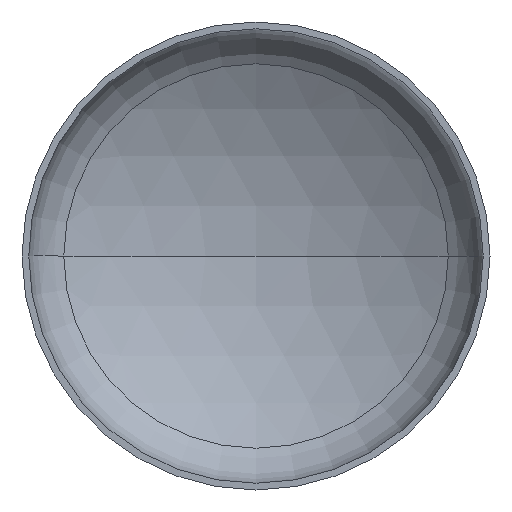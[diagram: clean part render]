
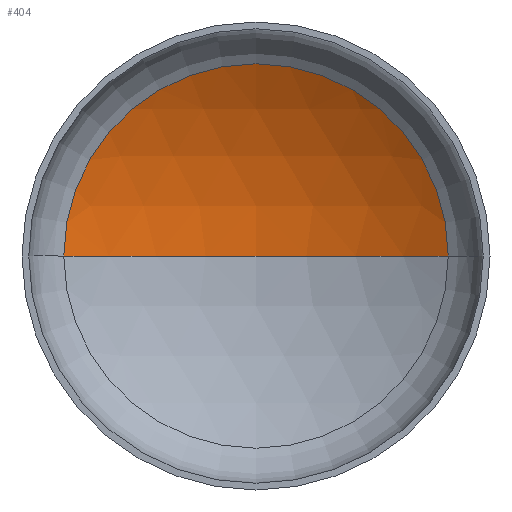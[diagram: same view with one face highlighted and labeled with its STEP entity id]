
A CAD part, front view. The second image highlights one B-rep face of the part: STEP entity #404.
In plain terms, the highlighted spherical face has radius 3200 mm.
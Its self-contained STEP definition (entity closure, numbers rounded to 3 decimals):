
#10 = AXIS2_PLACEMENT_3D ( 'NONE', #409, #318, #214 ) ;
#31 = VERTEX_POINT ( 'NONE', #244 ) ;
#43 = ORIENTED_EDGE ( 'NONE', *, *, #347, .F. ) ;
#56 = AXIS2_PLACEMENT_3D ( 'NONE', #407, #63, #59 ) ;
#57 = AXIS2_PLACEMENT_3D ( 'NONE', #196, #199, #175 ) ;
#59 = DIRECTION ( 'NONE',  ( -1., 0., 0. ) ) ;
#63 = DIRECTION ( 'NONE',  ( 0., 0., -1. ) ) ;
#99 = DIRECTION ( 'NONE',  ( 0., 0., -1. ) ) ;
#109 = CIRCLE ( 'NONE', #10, 3200. ) ;
#110 = EDGE_CURVE ( 'NONE', #369, #31, #282, .T. ) ;
#112 = ORIENTED_EDGE ( 'NONE', *, *, #130, .T. ) ;
#130 = EDGE_CURVE ( 'NONE', #353, #369, #351, .T. ) ;
#131 = DIRECTION ( 'NONE',  ( -1., 0., 0. ) ) ;
#175 = DIRECTION ( 'NONE',  ( 1., 0., 0. ) ) ;
#196 = CARTESIAN_POINT ( 'NONE',  ( 0., 647.782, 0. ) ) ;
#199 = DIRECTION ( 'NONE',  ( 0., -1., 0. ) ) ;
#214 = DIRECTION ( 'NONE',  ( 1., 0., 0. ) ) ;
#241 = CARTESIAN_POINT ( 'NONE',  ( 1642.708, 647.782, 0. ) ) ;
#244 = CARTESIAN_POINT ( 'NONE',  ( -1642.708, 647.782, 0. ) ) ;
#247 = ORIENTED_EDGE ( 'NONE', *, *, #110, .T. ) ;
#262 = CARTESIAN_POINT ( 'NONE',  ( 0., -2098.399, 0. ) ) ;
#266 = EDGE_LOOP ( 'NONE', ( #43, #112, #247 ) ) ;
#282 = CIRCLE ( 'NONE', #57, 1642.708 ) ;
#286 = SPHERICAL_SURFACE ( 'NONE', #406, 3200. ) ;
#297 = FACE_OUTER_BOUND ( 'NONE', #266, .T. ) ;
#318 = DIRECTION ( 'NONE',  ( 0., 0., 1. ) ) ;
#347 = EDGE_CURVE ( 'NONE', #353, #31, #109, .T. ) ;
#351 = CIRCLE ( 'NONE', #56, 3200. ) ;
#353 = VERTEX_POINT ( 'NONE', #411 ) ;
#369 = VERTEX_POINT ( 'NONE', #241 ) ;
#404 = ADVANCED_FACE ( 'NONE', ( #297 ), #286, .F. ) ;
#406 = AXIS2_PLACEMENT_3D ( 'NONE', #262, #99, #131 ) ;
#407 = CARTESIAN_POINT ( 'NONE',  ( 0., -2098.399, 0. ) ) ;
#409 = CARTESIAN_POINT ( 'NONE',  ( 0., -2098.399, 0. ) ) ;
#411 = CARTESIAN_POINT ( 'NONE',  ( 0., 1101.601, 0. ) ) ;
